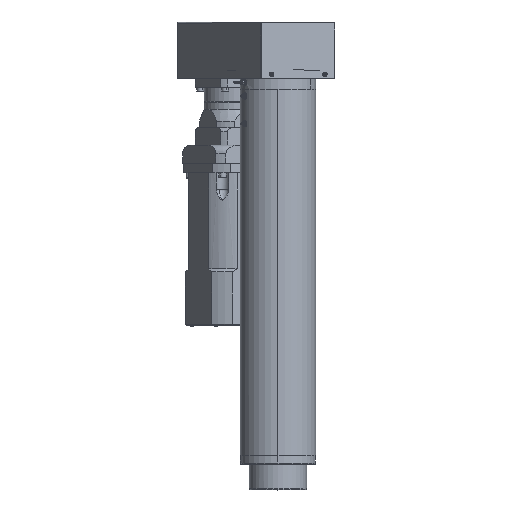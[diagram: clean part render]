
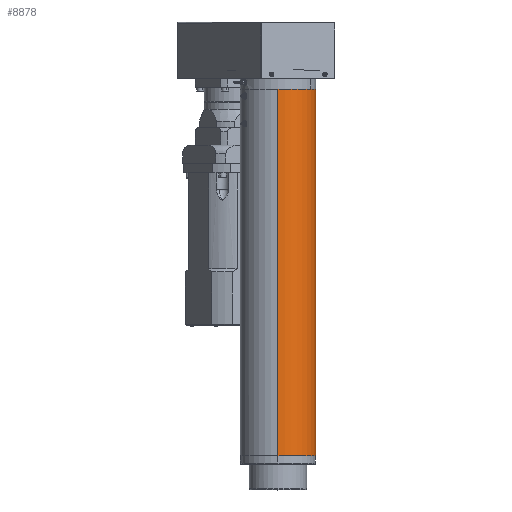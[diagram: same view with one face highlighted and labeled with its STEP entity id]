
A CAD part, top view. The second image highlights one B-rep face of the part: STEP entity #8878.
In plain terms, the highlighted cylindrical face has radius 89 mm (diameter 178 mm), a partial arc.
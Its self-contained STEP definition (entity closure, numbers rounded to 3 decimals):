
#200 = CIRCLE ( 'NONE', #47028, 89. ) ;
#301 = CARTESIAN_POINT ( 'NONE',  ( 0., 0., 89. ) ) ;
#1806 = ORIENTED_EDGE ( 'NONE', *, *, #3326, .T. ) ;
#3154 = LINE ( 'NONE', #42092, #33732 ) ;
#3326 = EDGE_CURVE ( 'NONE', #22400, #39252, #35181, .T. ) ;
#4179 = CARTESIAN_POINT ( 'NONE',  ( 0., 880., 0. ) ) ;
#5737 = DIRECTION ( 'NONE',  ( 0., -1., 0. ) ) ;
#6025 = CARTESIAN_POINT ( 'NONE',  ( 0., 0., 0. ) ) ;
#7391 = CIRCLE ( 'NONE', #42578, 89. ) ;
#8878 = ADVANCED_FACE ( 'NONE', ( #13537 ), #39331, .T. ) ;
#10305 = VERTEX_POINT ( 'NONE', #17373 ) ;
#13402 = DIRECTION ( 'NONE',  ( 0., -1., 0. ) ) ;
#13537 = FACE_OUTER_BOUND ( 'NONE', #43954, .T. ) ;
#14681 = DIRECTION ( 'NONE',  ( 0., 0., -1. ) ) ;
#17373 = CARTESIAN_POINT ( 'NONE',  ( 0., 880., -89. ) ) ;
#18410 = VERTEX_POINT ( 'NONE', #37576 ) ;
#18846 = CARTESIAN_POINT ( 'NONE',  ( 0., 20., 89. ) ) ;
#19237 = VECTOR ( 'NONE', #13402, 1000. ) ;
#22400 = VERTEX_POINT ( 'NONE', #46092 ) ;
#22933 = CARTESIAN_POINT ( 'NONE',  ( 0., 20., 0. ) ) ;
#26885 = ORIENTED_EDGE ( 'NONE', *, *, #49826, .T. ) ;
#27634 = AXIS2_PLACEMENT_3D ( 'NONE', #6025, #5737, #14681 ) ;
#28906 = ORIENTED_EDGE ( 'NONE', *, *, #30793, .F. ) ;
#30793 = EDGE_CURVE ( 'NONE', #10305, #18410, #3154, .T. ) ;
#33732 = VECTOR ( 'NONE', #37531, 1000. ) ;
#35181 = LINE ( 'NONE', #301, #19237 ) ;
#35947 = DIRECTION ( 'NONE',  ( 0., 0., -1. ) ) ;
#37531 = DIRECTION ( 'NONE',  ( 0., -1., 0. ) ) ;
#37576 = CARTESIAN_POINT ( 'NONE',  ( 0., 20., -89. ) ) ;
#39252 = VERTEX_POINT ( 'NONE', #18846 ) ;
#39331 = CYLINDRICAL_SURFACE ( 'NONE', #27634, 89. ) ;
#42092 = CARTESIAN_POINT ( 'NONE',  ( 0., 0., -89. ) ) ;
#42578 = AXIS2_PLACEMENT_3D ( 'NONE', #22933, #54833, #35947 ) ;
#43954 = EDGE_LOOP ( 'NONE', ( #26885, #1806, #47544, #28906 ) ) ;
#46092 = CARTESIAN_POINT ( 'NONE',  ( 0., 880., 89. ) ) ;
#47028 = AXIS2_PLACEMENT_3D ( 'NONE', #4179, #47622, #48164 ) ;
#47188 = EDGE_CURVE ( 'NONE', #18410, #39252, #7391, .T. ) ;
#47544 = ORIENTED_EDGE ( 'NONE', *, *, #47188, .F. ) ;
#47622 = DIRECTION ( 'NONE',  ( 0., -1., 0. ) ) ;
#48164 = DIRECTION ( 'NONE',  ( 0., 0., -1. ) ) ;
#49826 = EDGE_CURVE ( 'NONE', #10305, #22400, #200, .T. ) ;
#54833 = DIRECTION ( 'NONE',  ( 0., -1., 0. ) ) ;
